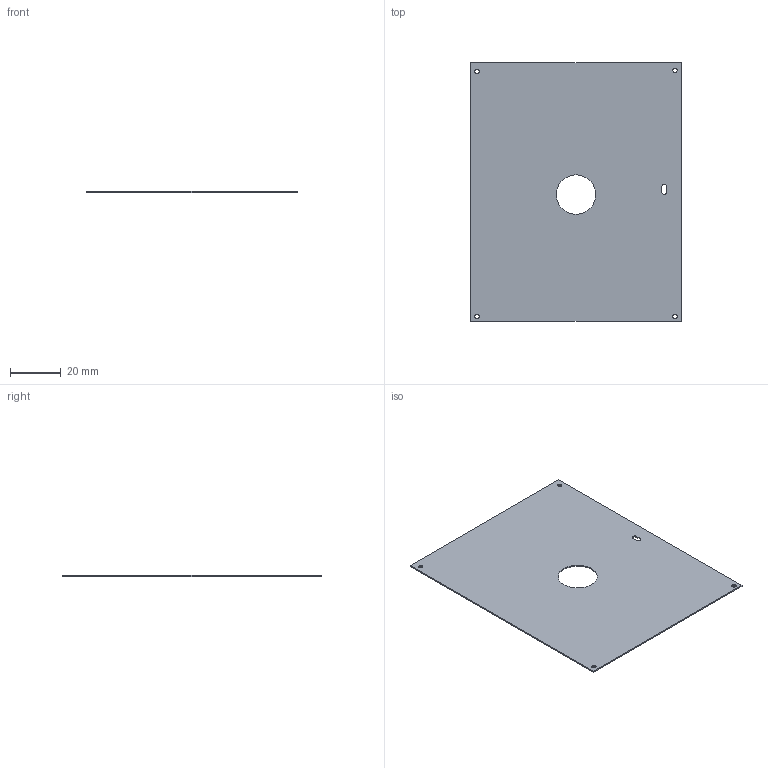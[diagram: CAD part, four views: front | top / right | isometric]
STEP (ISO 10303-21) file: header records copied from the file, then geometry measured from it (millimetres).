
FILE_DESCRIPTION((''),'2;1');
FILE_NAME('SOLAR_CELLS_BOARD_CAM','2020-03-13T',('g0715'),(''),'PRO/ENGINEER BY PARAMETRIC TECHNOLOGY CORPORATION, 2014090','PRO/ENGINEER BY PARAMETRIC TECHNOLOGY CORPORATION, 2014090','');
FILE_SCHEMA(('CONFIG_CONTROL_DESIGN'));
Length unit declared in the file: millimetre
Products named in the file (1): SOLAR_CELLS_BOARD_CAM
Bounding box: 83 x 102 x 0.5 mm (x, y, z)
Volume: 4130.5 mm3; surface area: 16747.3 mm2
Topology: 1 solids, 1 shells, 20 faces, 54 edges, 36 vertices
Faces by surface type: cylinder 12, plane 8
Entity records: 704 total; most frequent: DIRECTION 118, CARTESIAN_POINT 110, ORIENTED_EDGE 108, EDGE_CURVE 54, AXIS2_PLACEMENT_3D 44, VERTEX_POINT 36, EDGE_LOOP 32, VECTOR 30
